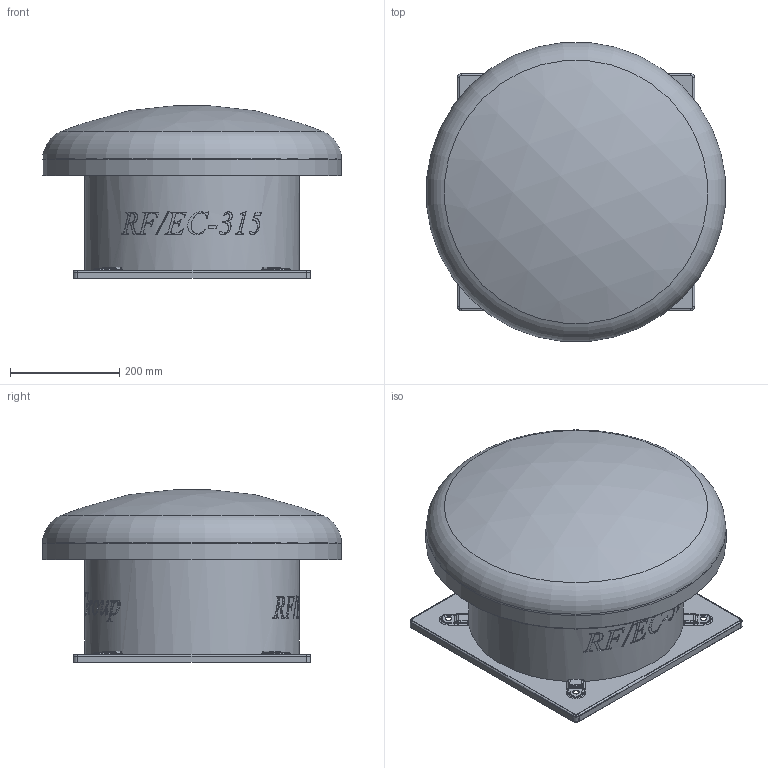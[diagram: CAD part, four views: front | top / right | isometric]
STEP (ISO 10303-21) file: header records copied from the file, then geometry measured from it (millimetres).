
FILE_DESCRIPTION(/* description */ (''),/* implementation_level */ '2;1');
FILE_NAME(/* name */ 'E:\Mariusz\Modele uproszczone\RF-EC\RF_EC_315 43522931\RF_EC_315 43522931\RF_EC_315 43522931.stp',/* time_stamp */ '2018-06-07T10:57:45+02:00',/* author */ ('M.Janczarek'),/* organization */ (''),/* preprocessor_version */ 'ST-DEVELOPER v16.5',/* originating_system */ 'Autodesk Inventor 2017',/* authorisation */ '');
FILE_SCHEMA (('AUTOMOTIVE_DESIGN { 1 0 10303 214 3 1 1 }'));
Length unit declared in the file: millimetre
Products named in the file (1): RF_EC_315 43522931
Bounding box: 547.91 x 547.91 x 316.81 mm (x, y, z)
Volume: 40635312.5 mm3; surface area: 1080447.5 mm2
Topology: 1 solids, 1 shells, 707 faces, 1907 edges, 1237 vertices
Faces by surface type: bspline 445, cylinder 113, plane 109, torus 34, cone 5, sphere 1
Full cylindrical faces by diameter (mm): 10 x1, 12 x4, 17.5 x1, 394 x1, 547 x1, 550 x1
Entity records: 31237 total; most frequent: CARTESIAN_POINT 15573, ORIENTED_EDGE 3778, DIRECTION 2205, EDGE_CURVE 1889, VERTEX_POINT 1231, AXIS2_PLACEMENT_3D 808, EDGE_LOOP 762, B_SPLINE_CURVE_WITH_KNOTS 755
